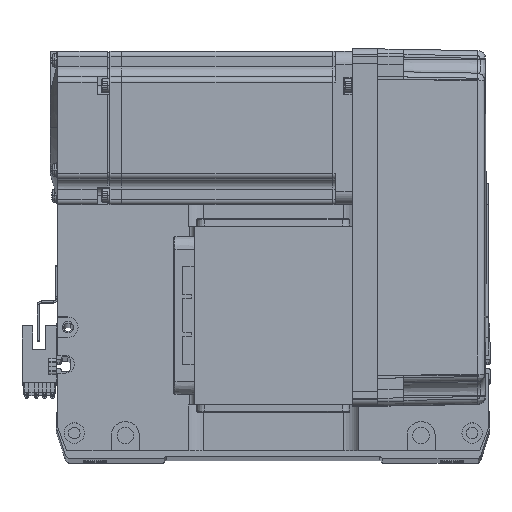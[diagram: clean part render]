
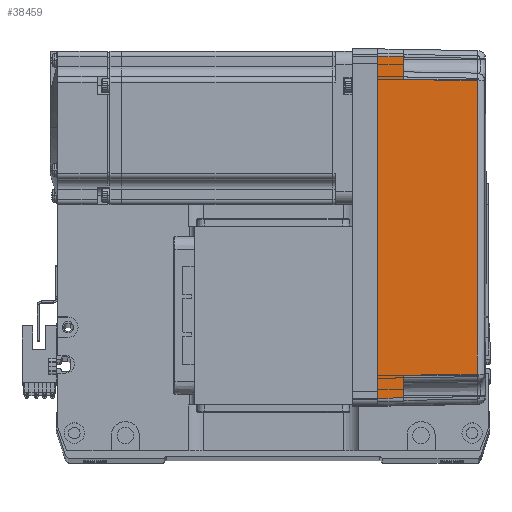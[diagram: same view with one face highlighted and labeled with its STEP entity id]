
A CAD part, top view. The second image highlights one B-rep face of the part: STEP entity #38459.
In plain terms, the highlighted planar face has unit normal (0.018, 0, 1) as drawn and (0, -1, 0.017) by its records, which use the part's own axes.
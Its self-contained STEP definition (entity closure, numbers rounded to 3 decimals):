
#123 = CARTESIAN_POINT ( 'NONE',  ( 70., -36., 0. ) ) ;
#356 = DIRECTION ( 'NONE',  ( 0., -1., 0.017 ) ) ;
#846 = CARTESIAN_POINT ( 'NONE',  ( 70., -35.825, 10. ) ) ;
#2126 = CARTESIAN_POINT ( 'NONE',  ( 58., -35.825, 10. ) ) ;
#2583 = ORIENTED_EDGE ( 'NONE', *, *, #61308, .T. ) ;
#2933 = CARTESIAN_POINT ( 'NONE',  ( 70., -35.825, 10. ) ) ;
#3221 = EDGE_CURVE ( 'NONE', #39141, #6286, #9155, .T. ) ;
#3320 = VECTOR ( 'NONE', #54453, 1000. ) ;
#4322 = LINE ( 'NONE', #10391, #15081 ) ;
#5399 = CARTESIAN_POINT ( 'NONE',  ( -66.959, -35.958, 2.39 ) ) ;
#6286 = VERTEX_POINT ( 'NONE', #46103 ) ;
#7265 = DIRECTION ( 'NONE',  ( -0.017, -0.017, -1. ) ) ;
#8173 = LINE ( 'NONE', #25274, #16594 ) ;
#8679 = CARTESIAN_POINT ( 'NONE',  ( 19.165, -35.316, 39.181 ) ) ;
#9155 = LINE ( 'NONE', #45760, #20569 ) ;
#9437 = VECTOR ( 'NONE', #20336, 1000. ) ;
#10391 = CARTESIAN_POINT ( 'NONE',  ( 67., -36., 0. ) ) ;
#12545 = DIRECTION ( 'NONE',  ( -1., 0., 0. ) ) ;
#13340 = EDGE_CURVE ( 'NONE', #28350, #16399, #8173, .T. ) ;
#13425 = EDGE_CURVE ( 'NONE', #51269, #43637, #4322, .T. ) ;
#13591 = CARTESIAN_POINT ( 'NONE',  ( -19.165, -35.316, 39.181 ) ) ;
#13823 = CARTESIAN_POINT ( 'NONE',  ( -57.495, -35.32, 38.985 ) ) ;
#14275 = FACE_OUTER_BOUND ( 'NONE', #47353, .T. ) ;
#15081 = VECTOR ( 'NONE', #54158, 1000. ) ;
#15933 = EDGE_CURVE ( 'NONE', #52052, #46047, #22375, .T. ) ;
#16399 = VERTEX_POINT ( 'NONE', #55716 ) ;
#16594 = VECTOR ( 'NONE', #34875, 1000. ) ;
#18025 = LINE ( 'NONE', #2933, #21790 ) ;
#18490 = CARTESIAN_POINT ( 'NONE',  ( -57.495, -35.32, 38.985 ) ) ;
#19638 = CARTESIAN_POINT ( 'NONE',  ( 0., -36., 0. ) ) ;
#20336 = DIRECTION ( 'NONE',  ( 0.017, 0.017, 1. ) ) ;
#20569 = VECTOR ( 'NONE', #7265, 1000. ) ;
#21602 = LINE ( 'NONE', #846, #3320 ) ;
#21790 = VECTOR ( 'NONE', #12545, 1000. ) ;
#22375 = LINE ( 'NONE', #5399, #9437 ) ;
#22942 = B_SPLINE_CURVE_WITH_KNOTS ( 'NONE', 3,
 ( #43139, #8679, #13591, #18490 ),
 .UNSPECIFIED., .F., .F.,
 ( 4, 4 ),
 ( 0., 1. ),
 .UNSPECIFIED. ) ;
#24545 = ORIENTED_EDGE ( 'NONE', *, *, #3221, .T. ) ;
#25274 = CARTESIAN_POINT ( 'NONE',  ( 58., -35.825, 10. ) ) ;
#25857 = VECTOR ( 'NONE', #44484, 1000. ) ;
#28350 = VERTEX_POINT ( 'NONE', #2126 ) ;
#29325 = PLANE ( 'NONE',  #44833 ) ;
#29711 = CARTESIAN_POINT ( 'NONE',  ( -67., -36., 0. ) ) ;
#32726 = EDGE_CURVE ( 'NONE', #51269, #52052, #55467, .T. ) ;
#34410 = DIRECTION ( 'NONE',  ( 0., -0.017, -1. ) ) ;
#34875 = DIRECTION ( 'NONE',  ( -0.017, 0.017, 1. ) ) ;
#35581 = ORIENTED_EDGE ( 'NONE', *, *, #55417, .T. ) ;
#35660 = CARTESIAN_POINT ( 'NONE',  ( 67., -36., 0. ) ) ;
#37648 = ORIENTED_EDGE ( 'NONE', *, *, #13340, .T. ) ;
#38459 = ADVANCED_FACE ( 'NONE', ( #14275 ), #29325, .T. ) ;
#39141 = VERTEX_POINT ( 'NONE', #13823 ) ;
#41565 = CARTESIAN_POINT ( 'NONE',  ( -66.826, -35.825, 10. ) ) ;
#43139 = CARTESIAN_POINT ( 'NONE',  ( 57.495, -35.32, 38.985 ) ) ;
#43637 = VERTEX_POINT ( 'NONE', #55584 ) ;
#43639 = ORIENTED_EDGE ( 'NONE', *, *, #13425, .T. ) ;
#44484 = DIRECTION ( 'NONE',  ( -1., 0., 0. ) ) ;
#44833 = AXIS2_PLACEMENT_3D ( 'NONE', #123, #356, #34410 ) ;
#45760 = CARTESIAN_POINT ( 'NONE',  ( -57.495, -35.32, 38.985 ) ) ;
#46047 = VERTEX_POINT ( 'NONE', #41565 ) ;
#46103 = CARTESIAN_POINT ( 'NONE',  ( -58., -35.825, 10. ) ) ;
#47353 = EDGE_LOOP ( 'NONE', ( #43639, #35581, #37648, #2583, #24545, #61575, #55211, #62699 ) ) ;
#51269 = VERTEX_POINT ( 'NONE', #35660 ) ;
#52052 = VERTEX_POINT ( 'NONE', #29711 ) ;
#54158 = DIRECTION ( 'NONE',  ( -0.017, 0.017, 1. ) ) ;
#54453 = DIRECTION ( 'NONE',  ( -1., 0., 0. ) ) ;
#55211 = ORIENTED_EDGE ( 'NONE', *, *, #15933, .F. ) ;
#55417 = EDGE_CURVE ( 'NONE', #43637, #28350, #18025, .T. ) ;
#55467 = LINE ( 'NONE', #19638, #25857 ) ;
#55584 = CARTESIAN_POINT ( 'NONE',  ( 66.826, -35.825, 10. ) ) ;
#55716 = CARTESIAN_POINT ( 'NONE',  ( 57.495, -35.32, 38.985 ) ) ;
#56747 = EDGE_CURVE ( 'NONE', #6286, #46047, #21602, .T. ) ;
#61308 = EDGE_CURVE ( 'NONE', #16399, #39141, #22942, .T. ) ;
#61575 = ORIENTED_EDGE ( 'NONE', *, *, #56747, .T. ) ;
#62699 = ORIENTED_EDGE ( 'NONE', *, *, #32726, .F. ) ;
